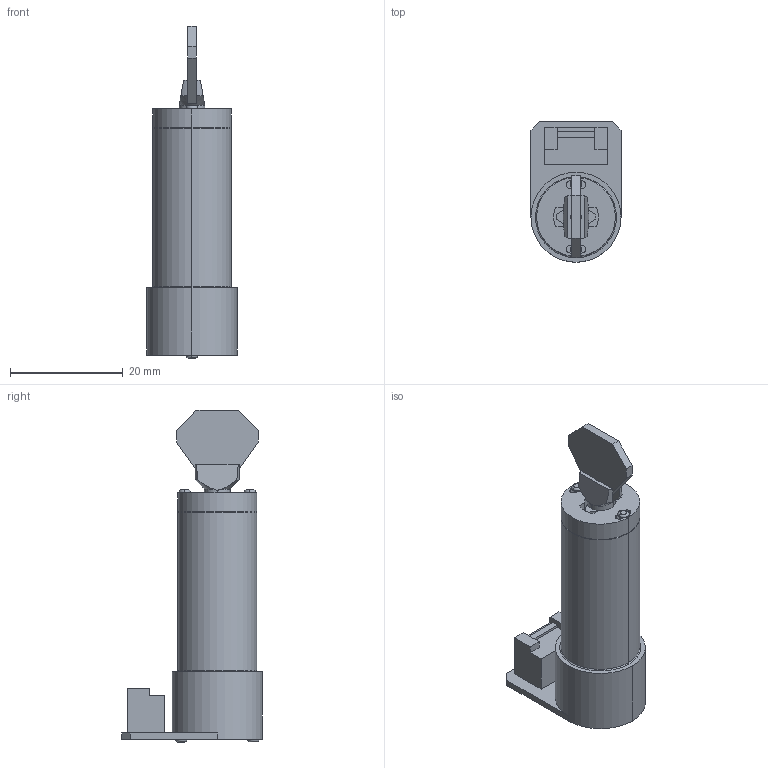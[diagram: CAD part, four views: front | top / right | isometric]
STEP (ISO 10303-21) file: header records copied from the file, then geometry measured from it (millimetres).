
FILE_DESCRIPTION (( 'STEP AP214' ), '1' );
FILE_NAME ('2002402_GVM-1445L-0010M GM1X.STEP', '2019-01-25T10:22:29', ( '' ), ( '' ), 'SwSTEP 2.0', 'SolidWorks 2018', '' );
FILE_SCHEMA (( 'AUTOMOTIVE_DESIGN' ));
Length unit declared in the file: millimetre
Products named in the file (5): 502-132a_GM1_1445L; 501-057_GM1X; 2002401_GVM-1445L-00100; 2001809_GM1X(1445L用); 2002402_GVM-1445L-0010M GM1X
Assembly tree (4 placements, depth 3):
  2002402_GVM-1445L-0010M GM1X
    2002401_GVM-1445L-00100
    2001809_GM1X(1445L用)
      502-132a_GM1_1445L
      501-057_GM1X
Bounding box: 16 x 25 x 59 mm (x, y, z)
Volume: 8266.1 mm3; surface area: 3826.1 mm2
Topology: 3 solids, 3 shells, 134 faces, 351 edges, 226 vertices
Faces by surface type: plane 69, cylinder 49, torus 10, cone 6
Entity records: 4467 total; most frequent: CARTESIAN_POINT 783, DIRECTION 771, ORIENTED_EDGE 702, EDGE_CURVE 351, AXIS2_PLACEMENT_3D 294, VERTEX_POINT 226, VECTOR 183, LINE 183
